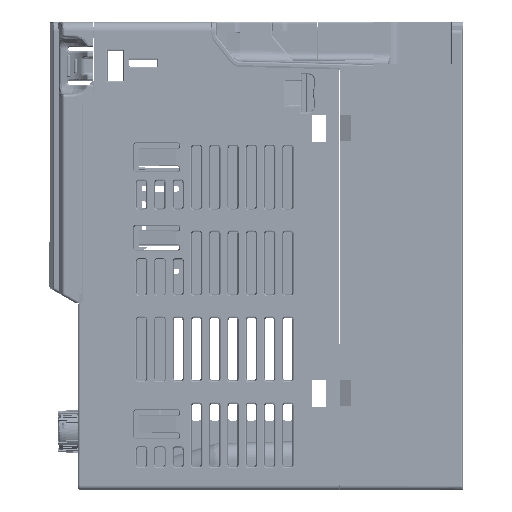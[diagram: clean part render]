
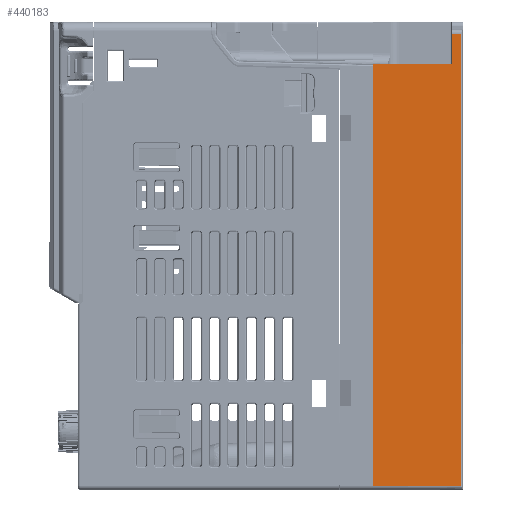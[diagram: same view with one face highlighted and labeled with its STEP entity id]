
A CAD part, left-side view. The second image highlights one B-rep face of the part: STEP entity #440183.
In plain terms, the highlighted planar face has unit normal (-1, 0, 0).
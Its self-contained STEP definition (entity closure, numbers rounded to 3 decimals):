
#437913=DIRECTION('',(0.,-1.,0.));
#437914=VECTOR('',#437913,23.9);
#437915=CARTESIAN_POINT('',(-34.,0.,-62.8));
#437916=LINE('',#437915,#437914);
#437920=CARTESIAN_POINT('',(-34.,-23.9,60.8));
#437944=CARTESIAN_POINT('',(-34.,-23.9,-62.8));
#437949=DIRECTION('',(0.,0.,1.));
#437950=VECTOR('',#437949,123.6);
#437951=CARTESIAN_POINT('',(-34.,-23.9,-62.8));
#437952=LINE('',#437951,#437950);
#437956=DIRECTION('',(0.,1.,0.));
#437957=VECTOR('',#437956,2.5);
#437958=CARTESIAN_POINT('',(-34.,-23.9,60.8));
#437959=LINE('',#437958,#437957);
#437970=DIRECTION('',(0.,0.,1.));
#437971=VECTOR('',#437970,115.3);
#437972=CARTESIAN_POINT('',(-34.,0.,-62.8));
#437973=LINE('',#437972,#437971);
#437977=DIRECTION('',(0.,-1.,0.));
#437978=VECTOR('',#437977,21.4);
#437979=CARTESIAN_POINT('',(-34.,0.,52.5));
#437980=LINE('',#437979,#437978);
#437984=DIRECTION('',(0.,0.,1.));
#437985=VECTOR('',#437984,8.3);
#437986=CARTESIAN_POINT('',(-34.,-21.4,52.5));
#437987=LINE('',#437986,#437985);
#439742=CARTESIAN_POINT('',(-34.,0.,-62.8));
#439744=VERTEX_POINT('',#439742);
#439768=CARTESIAN_POINT('',(-34.,0.,52.5));
#439769=VERTEX_POINT('',#439768);
#439775=VERTEX_POINT('',#437944);
#439778=VERTEX_POINT('',#437920);
#439780=CARTESIAN_POINT('',(-34.,-21.4,60.8));
#439781=VERTEX_POINT('',#439780);
#439786=CARTESIAN_POINT('',(-34.,-21.4,52.5));
#439787=VERTEX_POINT('',#439786);
#440168=CARTESIAN_POINT('',(-34.,0.,-64.));
#440169=DIRECTION('',(-1.,0.,0.));
#440170=DIRECTION('',(0.,0.,1.));
#440171=AXIS2_PLACEMENT_3D('',#440168,#440169,#440170);
#440172=PLANE('',#440171);
#440173=ORIENTED_EDGE('',*,*,#440146,.F.);
#440174=ORIENTED_EDGE('',*,*,#440131,.F.);
#440175=ORIENTED_EDGE('',*,*,#440108,.T.);
#440177=ORIENTED_EDGE('',*,*,#440176,.T.);
#440179=ORIENTED_EDGE('',*,*,#440178,.T.);
#440180=ORIENTED_EDGE('',*,*,#440157,.F.);
#440181=EDGE_LOOP('',(#440173,#440174,#440175,#440177,#440179,#440180));
#440182=FACE_OUTER_BOUND('',#440181,.F.);
#440108=EDGE_CURVE('',#439744,#439769,#437973,.T.);
#440131=EDGE_CURVE('',#439744,#439775,#437916,.T.);
#440146=EDGE_CURVE('',#439775,#439778,#437952,.T.);
#440157=EDGE_CURVE('',#439778,#439781,#437959,.T.);
#440176=EDGE_CURVE('',#439769,#439787,#437980,.T.);
#440178=EDGE_CURVE('',#439787,#439781,#437987,.T.);
#440183=ADVANCED_FACE('',(#440182),#440172,.T.);
